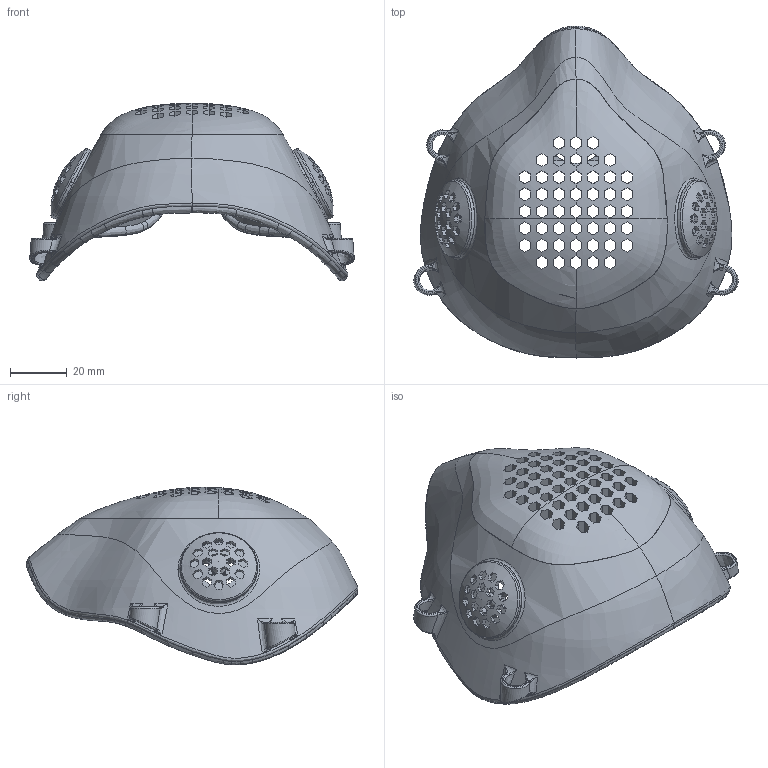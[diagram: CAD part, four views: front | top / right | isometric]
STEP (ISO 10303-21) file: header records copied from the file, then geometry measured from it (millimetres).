
FILE_DESCRIPTION(/* description */ (''),/* implementation_level */ '2;1');
FILE_NAME(/* name */ 'C:/Users/Max/Downloads/MaxMask V3 F3D (Dual).step',/* time_stamp */ '2020-08-10T07:29:19-07:00',/* author */ (''),/* organization */ (''),/* preprocessor_version */ 'ST-DEVELOPER v18.1',/* originating_system */ 'Autodesk Translation Framework v9.3.0.1241',/* authorisation */ '');
FILE_SCHEMA (('AUTOMOTIVE_DESIGN { 1 0 10303 214 3 1 1 }'));
Products named in the file (5): MaxMask V3 F3D (Dual); Filter Clip; Filter Housing; Mask Body Bottom; Mask Body Top
Assembly tree (4 placements, depth 2):
  MaxMask V3 F3D (Dual)
    Filter Clip
    Filter Housing
    Mask Body Bottom
    Mask Body Top
Bounding box: 114.03 x 116.64 x 62.45 mm (x, y, z)
Volume: 55890.5 mm3; surface area: 55454 mm2
Topology: 8 solids, 8 shells, 1510 faces, 4704 edges, 3110 vertices
Faces by surface type: plane 1056, bspline 291, cylinder 143, torus 8, cone 8, sphere 4
Full cylindrical faces by diameter (mm): 2.007 x1, 2.8 x4, 3.3 x2, 5 x2, 22 x4, 27.2 x2
Entity records: 80254 total; most frequent: CARTESIAN_POINT 40168, ORIENTED_EDGE 9364, DIRECTION 6855, EDGE_CURVE 4682, VERTEX_POINT 3110, LINE 2689, VECTOR 2689, AXIS2_PLACEMENT_3D 2083
